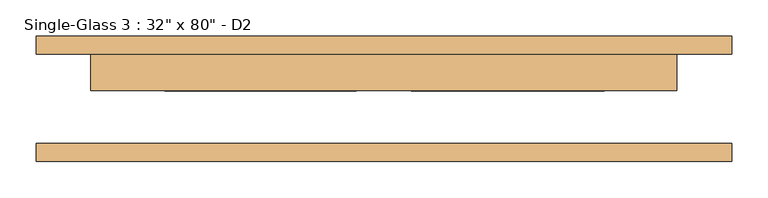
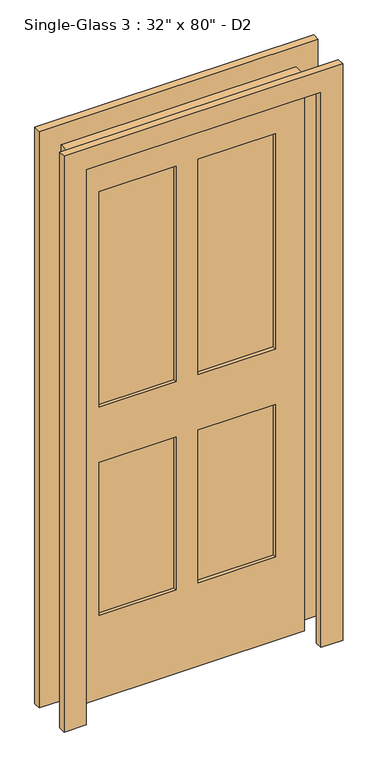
"""IFC4 building model written with IfcOpenShell, lengths in millimetres: door geometry."""

from ifc_helpers import new_model, si_unit, frame, origin, place, context, project, spatial, polyline, outline, extrude, source, transform, mapped, element, save


def door_238e255b(model_context):
    return source(origin(), model_context, "Body", "SweptSolid", [
        extrude(outline(polyline([(2108.2, -482.6), (0.0, -482.6), (0.0, -406.5240165), (2033.3906173, -406.5240165), (2033.3906173, 406.2759835), (0.0, 406.2759835), (0.0, 482.6), (2108.2, 482.6), (2108.2, -482.6)])), frame((0.0, 61.9125, 0.0), z_axis=(0.0, 1.0, 0.0), x_axis=(0.0, 0.0, 1.0)), (0.0, 0.0, 1.0), 25.4),
        extrude(outline(polyline([(2108.2, 482.6), (2108.2, -482.6), (1.3906173, -482.6), (1.3906173, -406.5240165), (2032.0, -406.5240165), (2032.0, 406.4), (0.0, 406.4), (0.0, 482.6), (2108.2, 482.6)])), frame((0.0, -87.3125, 0.0), z_axis=(0.0, 1.0, 0.0), x_axis=(0.0, 0.0, 1.0)), (0.0, 0.0, 1.0), 25.4),
        extrude(outline(polyline([(-37.9166629, 23.8125), (-304.8, 23.8125), (-304.8, 49.2125), (-37.9166629, 49.2125), (-37.9166629, 23.8125)])), frame((0.0, 0.0, 1066.8), z_axis=(0.0, 0.0, 1.0), x_axis=(1.0, 0.0, 0.0)), (0.0, 0.0, 1.0), 787.6046757),
        extrude(outline(polyline([(304.8, 23.8125), (37.4271634, 23.8125), (37.4271634, 49.2125), (304.8, 49.2125), (304.8, 23.8125)])), frame((0.0, 0.0, 1066.8), z_axis=(0.0, 0.0, 1.0), x_axis=(1.0, 0.0, 0.0)), (0.0, 0.0, 1.0), 787.6046757),
        extrude(outline(polyline([(-37.9166629, 23.8125), (-304.8, 23.8125), (-304.8, 49.2125), (-37.9166629, 49.2125), (-37.9166629, 23.8125)])), frame((0.0, 0.0, 305.0046757), z_axis=(0.0, 0.0, 1.0), x_axis=(1.0, 0.0, 0.0)), (0.0, 0.0, 1.0), 558.8),
        extrude(outline(polyline([(304.8, 23.8125), (37.4271634, 23.8125), (37.4271634, 49.2125), (304.8, 49.2125), (304.8, 23.8125)])), frame((0.0, 0.0, 305.0046757), z_axis=(0.0, 0.0, 1.0), x_axis=(1.0, 0.0, 0.0)), (0.0, 0.0, 1.0), 558.5953243),
        extrude(outline(polyline([(2033.3906173, 406.2759835), (2033.3906173, -406.5240165), (1.3906173, -406.5240165), (1.3906173, 406.2759835), (2033.3906173, 406.2759835)]), holes=[polyline([(1855.795293, -38.2240165), (1068.1906173, -38.2240165), (1068.1906173, -304.2511799), (1855.795293, -304.2511799), (1855.795293, -38.2240165)]), polyline([(1855.795293, 305.3488201), (1068.1906173, 305.3488201), (1068.1906173, 37.9759835), (1855.795293, 37.9759835), (1855.795293, 305.3488201)]), polyline([(865.195293, -38.2240165), (306.395293, -38.2240165), (306.395293, -304.2511799), (865.195293, -304.2511799), (865.195293, -38.2240165)]), polyline([(864.9906173, 305.3488201), (306.395293, 305.3488201), (306.395293, 37.9759835), (864.9906173, 37.9759835), (864.9906173, 305.3488201)])]), frame((0.0, 11.1125, 0.0), z_axis=(0.0, 1.0, 0.0), x_axis=(0.0, 0.0, 1.0)), (0.0, 0.0, 1.0), 50.8),
    ])


if __name__ == "__main__":
    model = new_model("IFC4")
    model_context = context("Model", 3, world=origin())
    ifc_project = project(units=[si_unit("LENGTHUNIT", "METRE", prefix="MILLI")], contexts=[model_context])
    site = spatial("IfcSite", under=ifc_project)
    building = spatial("IfcBuilding", under=site)
    placement = place(None, origin())
    door_shape = door_238e255b(model_context)
    element("IfcDoor", 1, ObjectType="Single-Glass 3 : 32\" x 80\" - D2", at=placement, inside=building, context=model_context, shape_type="MappedRepresentation", body=[
        mapped(door_shape, transform((0.0, 0.0, 0.0), x_axis=(1.0, 0.0, 0.0), y_axis=(0.0, 1.0, 0.0), z_axis=(0.0, 0.0, 1.0))),
    ])
    save(model, "model.ifc")
